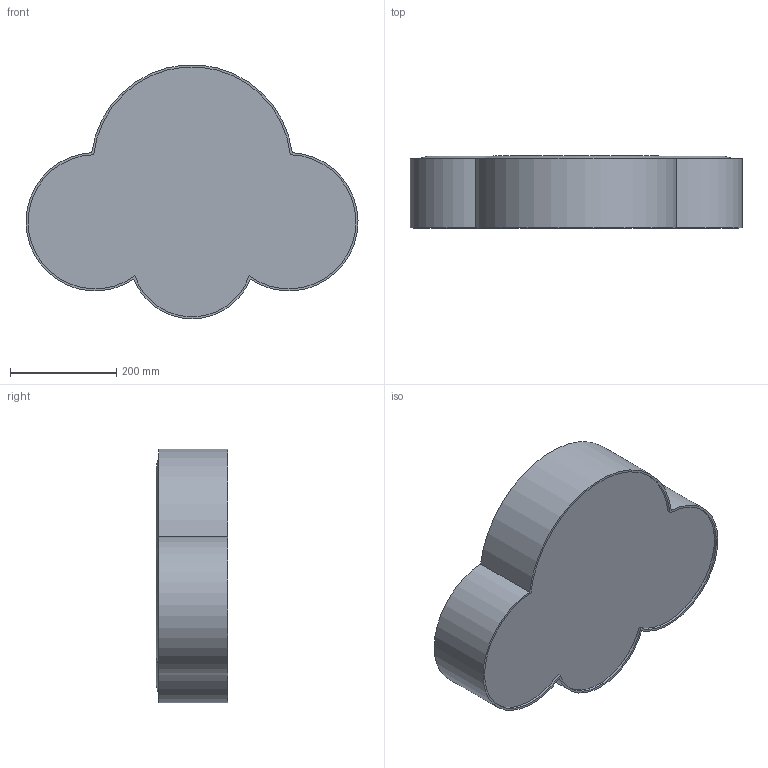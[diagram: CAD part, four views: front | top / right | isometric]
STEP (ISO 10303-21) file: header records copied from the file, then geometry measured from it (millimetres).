
FILE_DESCRIPTION(/* description */ (''),/* implementation_level */ '2;1');
FILE_NAME(/* name */ 'C:/Users/kubaw/OneDrive/Pulpit/3D/JAKUB_WIECZORKOWSKI_MAJ_PACZKA/OK/1533_CLOUD v3.step',/* time_stamp */ '2021-06-16T16:03:28+02:00',/* author */ (''),/* organization */ (''),/* preprocessor_version */ 'ST-DEVELOPER v18.1',/* originating_system */ 'Autodesk Translation Framework v10.9.0.1377',/* authorisation */ '');
FILE_SCHEMA (('AUTOMOTIVE_DESIGN { 1 0 10303 214 3 1 1 }'));
Length unit declared in the file: millimetre
Products named in the file (2): 1533_CLOUD; MOCOWANIE CLOUD_PLAFON
Assembly tree (1 placements, depth 2):
  1533_CLOUD
    MOCOWANIE CLOUD_PLAFON
Bounding box: 623.71 x 135 x 476.82 mm (x, y, z)
Volume: 3055215.5 mm3; surface area: 1355143.7 mm2
Topology: 34 solids, 34 shells, 342 faces, 791 edges, 516 vertices
Faces by surface type: plane 268, cylinder 64, torus 8, bspline 2
Full cylindrical faces by diameter (mm): 14.819 x8, 18 x1, 20 x1, 20.058 x4, 28.544 x4, 30 x7, 40 x4, 45 x4, 96 x1, 100 x1
Entity records: 11689 total; most frequent: CARTESIAN_POINT 3643, DIRECTION 1629, ORIENTED_EDGE 1582, EDGE_CURVE 791, LINE 633, VECTOR 633, VERTEX_POINT 516, AXIS2_PLACEMENT_3D 498
